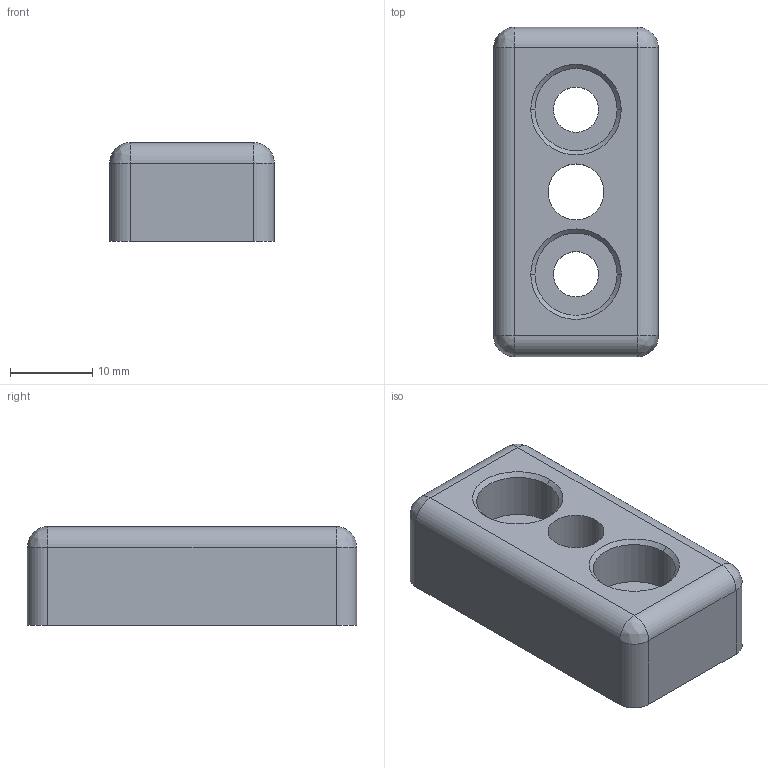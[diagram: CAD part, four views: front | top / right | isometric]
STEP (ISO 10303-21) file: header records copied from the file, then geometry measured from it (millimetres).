
FILE_DESCRIPTION (( 'STEP AP203' ), '1' );
FILE_NAME ('0105FP4020M8.STEP', '2024-03-15T08:21:41', ( 'Windows-Benutzer' ), ( '' ), 'SwSTEP 2.0', 'SolidWorks 2023', '' );
FILE_SCHEMA (( 'CONFIG_CONTROL_DESIGN' ));
Length unit declared in the file: millimetre
Products named in the file (1): 0105FP4020M8
Bounding box: 20 x 40 x 12 mm (x, y, z)
Volume: 7713.6 mm3; surface area: 3506.1 mm2
Topology: 1 solids, 1 shells, 34 faces, 78 edges, 44 vertices
Faces by surface type: cylinder 18, plane 8, cone 4, bspline 4
Entity records: 1063 total; most frequent: CARTESIAN_POINT 213, DIRECTION 176, ORIENTED_EDGE 148, EDGE_CURVE 74, AXIS2_PLACEMENT_3D 71, VERTEX_POINT 44, EDGE_LOOP 42, CIRCLE 40
